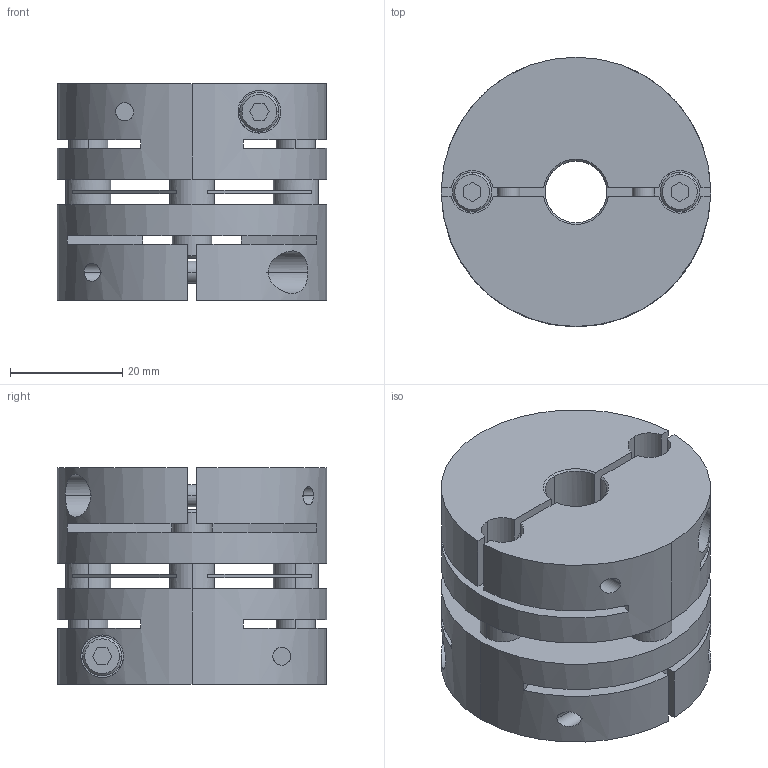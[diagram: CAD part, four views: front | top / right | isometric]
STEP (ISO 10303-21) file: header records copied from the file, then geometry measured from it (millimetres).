
FILE_DESCRIPTION((''),'2;1');
FILE_NAME('LAS-48C-11×20.stp','2015-10-14T15:43:01',(''),(''),'AutoCAD STEP 2000i','AutoCAD 2000i',', , ');
FILE_SCHEMA(('CONFIG_CONTROL_DESIGN'));
Length unit declared in the file: millimetre
Products named in the file (6): LAS-48C-12×19; 忣兜1; LA-4802-D19; LA-4802-D12-1; LA-4802-D12; LAS48-ITA
Assembly tree (5 placements, depth 2):
  LAS-48C-12×19
    忣兜1
    LA-4802-D19
    LA-4802-D12-1
    LA-4802-D12
    LAS48-ITA
Bounding box: 48 x 48 x 38.6 mm (x, y, z)
Volume: 49168 mm3; surface area: 22224.1 mm2
Topology: 1 solids, 1 shells, 224 faces, 600 edges, 392 vertices
Faces by surface type: plane 112, cylinder 84, cone 28
Entity records: 7841 total; most frequent: CARTESIAN_POINT 1878, DIRECTION 1256, ORIENTED_EDGE 1200, EDGE_CURVE 600, AXIS2_PLACEMENT_3D 458, VERTEX_POINT 392, VECTOR 340, LINE 340
